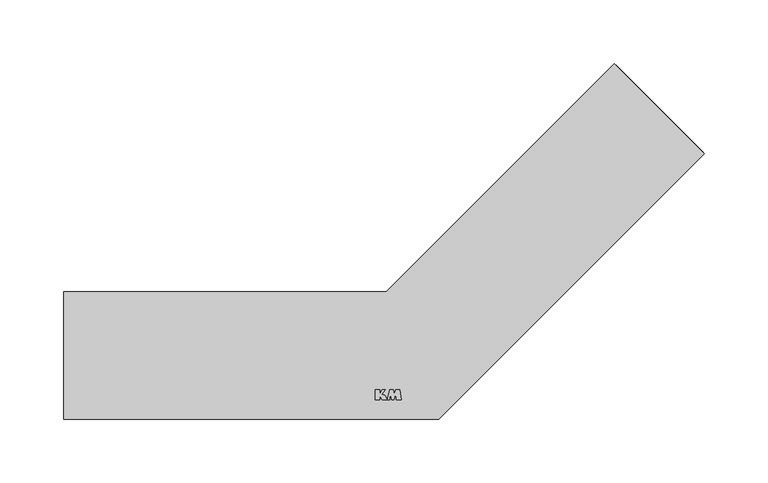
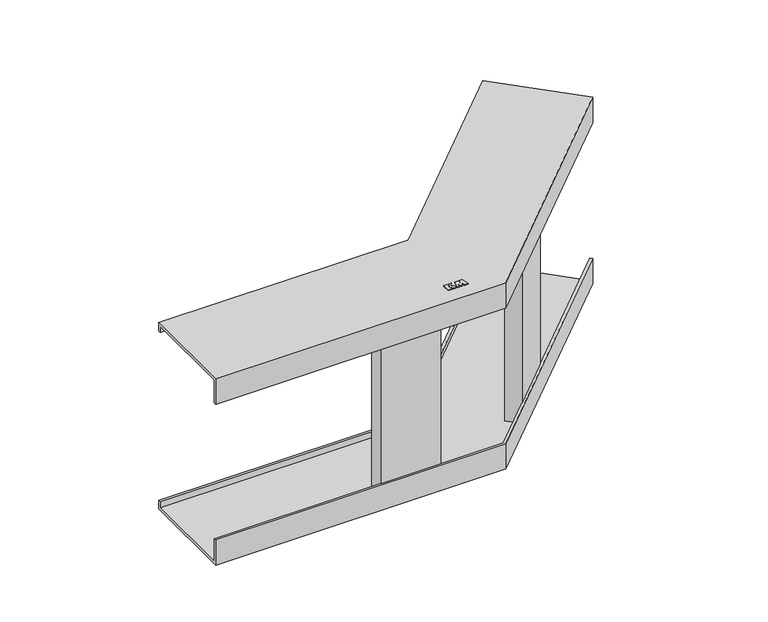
"""IFC4 building model written with IfcOpenShell, lengths in millimetres: cable carrier fitting geometry, КМ Профиль L Угол вертикальный внутренний «Быстрый монтаж» : Угол вертикальный внутренний «Быстрый монтаж»."""

from ifc_helpers import new_model, si_unit, frame, origin, place, context, project, spatial, polyline, outline, extrude, faceted_brep, source, transform, mapped, element, save


def cable_carrier_fitting_468b57e9(model_context):
    return source(origin(), model_context, "Body", "SolidModel", [
        extrude(outline(polyline([(-29.2388781, -26.986157), (-25.7316192, -26.986157), (-25.7316192, -30.564509), (-23.8289757, -26.986157), (-21.703011, -26.986157), (-24.1694955, -30.5086619), (-21.9277444, -31.194034), (-20.0604353, -34.737421), (-23.9588467, -34.737421), (-25.6630512, -31.5720802), (-25.6630512, -34.737421), (-29.2388781, -34.737421), (-29.2388781, -26.986157)])), frame((0.0, 0.0, 100.0), z_axis=(0.0, 0.0, 1.0), x_axis=(1.0, 0.0, 0.0)), (0.0, 0.0, 1.0), 0.8),
        extrude(outline(polyline([(-17.9962759, -34.737421), (-19.8943395, -34.737421), (-18.0740589, -26.9647569), (-15.0433304, -26.9647569), (-14.2768297, -30.0390232), (-13.2555223, -26.9623682), (-10.0615674, -26.9623682), (-8.8700699, -34.7429915), (-12.7725105, -34.7429915), (-13.2500032, -30.0541919), (-14.7300717, -34.7434681), (-16.2045824, -34.7434681), (-17.6126012, -30.0696135), (-17.9962759, -34.737421)])), frame((0.0, 0.0, 100.0), z_axis=(0.0, 0.0, 1.0), x_axis=(1.0, 0.0, 0.0)), (0.0, 0.0, 1.0), 0.8),
        extrude(outline(polyline([(-43.7893219, -31.5), (-43.7893219, -47.5), (-104.7893219, -47.5), (-104.7893219, -31.5), (-43.7893219, -31.5)])), frame((0.0, 0.0, -95.0), z_axis=(0.0, 0.0, 1.0), x_axis=(1.0, 0.0, 0.0)), (0.0, 0.0, 1.0), 190.0),
        extrude(outline(polyline([(96.3711037, 51.8233765), (107.6848122, 40.509668), (64.5512986, -2.6238457), (53.2375901, 8.6898628), (96.3711037, 51.8233765)])), frame((0.0, 0.0, -95.0), z_axis=(0.0, 0.0, 1.0), x_axis=(1.0, 0.0, 0.0)), (0.0, 0.0, 1.0), 190.0),
        faceted_brep([(-274.2893219, 50.0, 91.0), (-274.2893219, 47.5, 91.0), (-274.2893219, 47.5, 97.5), (-274.2893219, -47.5, 97.5), (-274.2893219, -47.5, 73.0), (-274.2893219, -50.0, 73.0), (-274.2893219, -50.0, 100.0), (-274.2893219, 50.0, 100.0), (-20.7106781, 50.0, 91.0), (158.5965005, 229.3071786, 91.0), (160.3642674, 227.5394116, 91.0), (-19.6751442, 47.5, 91.0), (-19.6751442, 47.5, 97.5), (160.3642674, 227.5394116, 97.5), (227.5394116, 160.3642674, 97.5), (19.6751442, -47.5, 97.5), (19.6751442, -47.5, 73.0), (227.5394116, 160.3642674, 73.0), (229.3071786, 158.5965005, 73.0), (20.7106781, -50.0, 73.0), (20.7106781, -50.0, 100.0), (229.3071786, 158.5965005, 100.0), (158.5965005, 229.3071786, 100.0), (-20.7106781, 50.0, 100.0)], [[[0, 1, 2, 3, 4, 5, 6, 7]], [[1, 0, 8, 9, 10, 11]], [[2, 1, 11, 12]], [[3, 2, 12, 13, 14, 15]], [[4, 3, 15, 16]], [[5, 4, 16, 17, 18, 19]], [[6, 5, 19, 20]], [[7, 6, 20, 21, 22, 23]], [[0, 7, 23, 8]], [[9, 22, 21, 18, 17, 14, 13, 10]], [[12, 11, 10, 13]], [[16, 15, 14, 17]], [[20, 19, 18, 21]], [[8, 23, 22, 9]]]),
        faceted_brep([(-274.2893219, 50.0, -91.0), (-274.2893219, 50.0, -100.0), (-274.2893219, -50.0, -100.0), (-274.2893219, -50.0, -73.0), (-274.2893219, -47.5, -73.0), (-274.2893219, -47.5, -97.5), (-274.2893219, 47.5, -97.5), (-274.2893219, 47.5, -91.0), (-20.7106781, 50.0, -91.0), (-20.7106781, 50.0, -100.0), (158.5965005, 229.3071786, -100.0), (229.3071786, 158.5965005, -100.0), (20.7106781, -50.0, -100.0), (20.7106781, -50.0, -73.0), (229.3071786, 158.5965005, -73.0), (227.5394116, 160.3642674, -73.0), (19.6751442, -47.5, -73.0), (19.6751442, -47.5, -97.5), (227.5394116, 160.3642674, -97.5), (160.3642674, 227.5394116, -97.5), (-19.6751442, 47.5, -97.5), (-19.6751442, 47.5, -91.0), (160.3642674, 227.5394116, -91.0), (158.5965005, 229.3071786, -91.0)], [[[0, 1, 2, 3, 4, 5, 6, 7]], [[1, 0, 8, 9]], [[2, 1, 9, 10, 11, 12]], [[3, 2, 12, 13]], [[4, 3, 13, 14, 15, 16]], [[5, 4, 16, 17]], [[6, 5, 17, 18, 19, 20]], [[7, 6, 20, 21]], [[0, 7, 21, 22, 23, 8]], [[23, 22, 19, 18, 15, 14, 11, 10]], [[9, 8, 23, 10]], [[13, 12, 11, 14]], [[17, 16, 15, 18]], [[21, 20, 19, 22]]]),
    ])


if __name__ == "__main__":
    model = new_model("IFC4")
    model_context = context("Model", 3, world=origin())
    ifc_project = project(units=[si_unit("LENGTHUNIT", "METRE", prefix="MILLI")], contexts=[model_context])
    site = spatial("IfcSite", under=ifc_project)
    building = spatial("IfcBuilding", under=site)
    placement = place(None, origin())
    cable_carrier_fitting_shape = cable_carrier_fitting_468b57e9(model_context)
    element("IfcCableCarrierFitting", 1, ObjectType="КМ Профиль L Угол вертикальный внутренний «Быстрый монтаж» : Угол вертикальный внутренний «Быстрый монтаж»", at=placement, inside=building, context=model_context, shape_type="MappedRepresentation", body=[
        mapped(cable_carrier_fitting_shape, transform((0.0, 0.0, 0.0), x_axis=(1.0, 0.0, 0.0), y_axis=(0.0, 1.0, 0.0), z_axis=(0.0, 0.0, 1.0))),
    ])
    save(model, "model.ifc")
